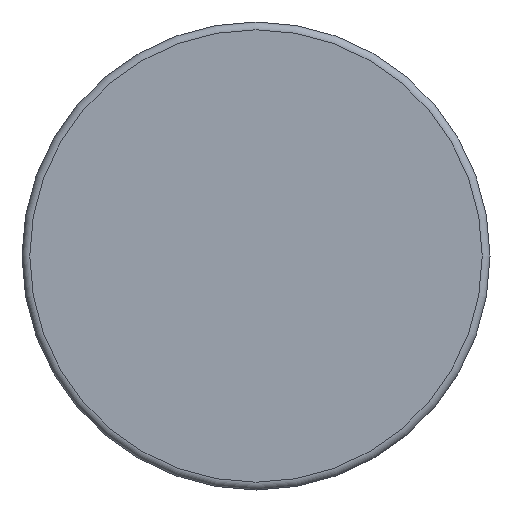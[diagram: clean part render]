
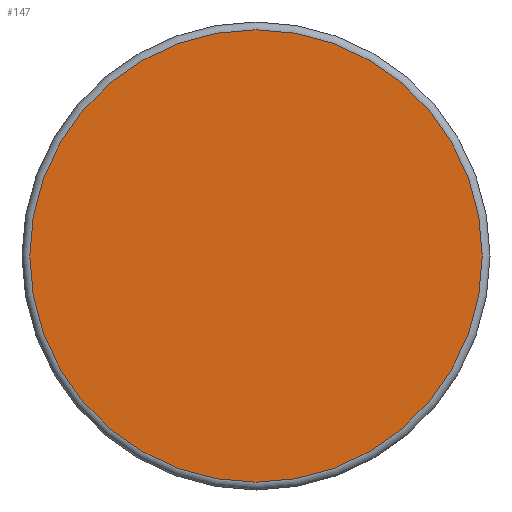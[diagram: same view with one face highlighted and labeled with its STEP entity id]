
A CAD part, front view. The second image highlights one B-rep face of the part: STEP entity #147.
In plain terms, the highlighted planar face has unit normal (0, -1, 0).
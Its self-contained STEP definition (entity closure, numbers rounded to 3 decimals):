
#147 = ADVANCED_FACE( '', ( #304 ), #305, .F. );
#304 = FACE_OUTER_BOUND( '', #504, .T. );
#305 = PLANE( '', #505 );
#504 = EDGE_LOOP( '', ( #707 ) );
#505 = AXIS2_PLACEMENT_3D( '', #708, #709, #710 );
#707 = ORIENTED_EDGE( '', *, *, #1125, .T. );
#708 = CARTESIAN_POINT( '', ( 29., 0., 0. ) );
#709 = DIRECTION( '', ( 0., 1., 0. ) );
#710 = DIRECTION( '', ( 0., 0., 1. ) );
#1125 = EDGE_CURVE( '', #1296, #1296, #1297, .T. );
#1296 = VERTEX_POINT( '', #1540 );
#1297 = CIRCLE( '', #1541, 29. );
#1540 = CARTESIAN_POINT( '', ( 0., 0., -29. ) );
#1541 = AXIS2_PLACEMENT_3D( '', #2017, #2018, #2019 );
#2017 = CARTESIAN_POINT( '', ( 0., 0., 0. ) );
#2018 = DIRECTION( '', ( 0., -1., 0. ) );
#2019 = DIRECTION( '', ( 0., 0., -1. ) );
